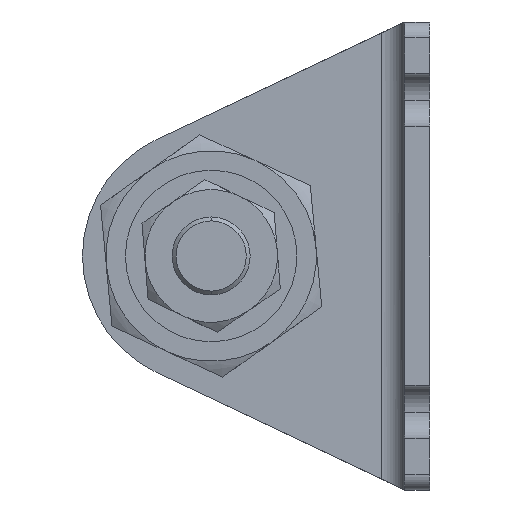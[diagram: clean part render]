
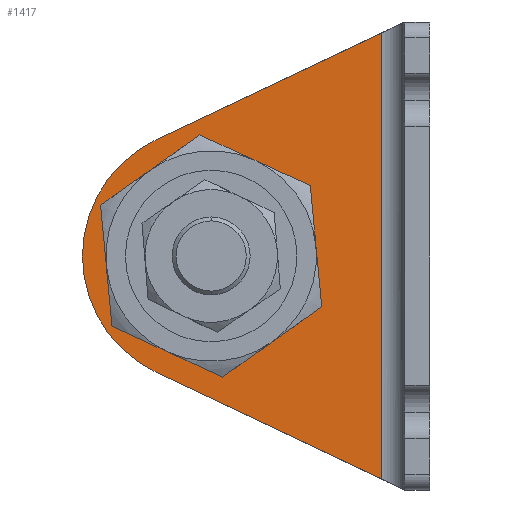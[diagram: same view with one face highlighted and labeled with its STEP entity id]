
A CAD part, left-side view. The second image highlights one B-rep face of the part: STEP entity #1417.
In plain terms, the highlighted planar face has unit normal (-1, 0, 0) as drawn and (1, 0, 0) by its records, which use the part's own axes.
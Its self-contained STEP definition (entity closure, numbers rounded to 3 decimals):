
#36 = DIRECTION ( 'NONE',  ( 0., 1., 0. ) ) ;
#90 = LINE ( 'NONE', #2504, #997 ) ;
#189 = AXIS2_PLACEMENT_3D ( 'NONE', #2409, #566, #434 ) ;
#203 = EDGE_CURVE ( 'NONE', #393, #1259, #2389, .T. ) ;
#204 = DIRECTION ( 'NONE',  ( 0., 0.904, -0.428 ) ) ;
#393 = VERTEX_POINT ( 'NONE', #3280 ) ;
#434 = DIRECTION ( 'NONE',  ( 0., 1., 0. ) ) ;
#566 = DIRECTION ( 'NONE',  ( 1., 0., 0. ) ) ;
#647 = EDGE_LOOP ( 'NONE', ( #2583, #804, #3081, #3786, #779 ) ) ;
#725 = VECTOR ( 'NONE', #204, 1000. ) ;
#753 = VERTEX_POINT ( 'NONE', #4062 ) ;
#769 = VERTEX_POINT ( 'NONE', #3979 ) ;
#779 = ORIENTED_EDGE ( 'NONE', *, *, #203, .T. ) ;
#783 = DIRECTION ( 'NONE',  ( 1., 0., 0. ) ) ;
#804 = ORIENTED_EDGE ( 'NONE', *, *, #3383, .T. ) ;
#849 = CARTESIAN_POINT ( 'NONE',  ( 3.2, 28., -30. ) ) ;
#941 = CARTESIAN_POINT ( 'NONE',  ( 3.2, 3.2, -60. ) ) ;
#997 = VECTOR ( 'NONE', #1192, 1000. ) ;
#1019 = CARTESIAN_POINT ( 'NONE',  ( 3.2, 35.062, -44.913 ) ) ;
#1043 = DIRECTION ( 'NONE',  ( 0., 1., 0. ) ) ;
#1045 = VERTEX_POINT ( 'NONE', #1019 ) ;
#1137 = CARTESIAN_POINT ( 'NONE',  ( 3.2, 28., -30. ) ) ;
#1192 = DIRECTION ( 'NONE',  ( 0., 0., -1. ) ) ;
#1259 = VERTEX_POINT ( 'NONE', #2529 ) ;
#1294 = LINE ( 'NONE', #4142, #3727 ) ;
#1319 = CIRCLE ( 'NONE', #1847, 11.5 ) ;
#1335 = EDGE_CURVE ( 'NONE', #1045, #393, #3227, .T. ) ;
#1388 = AXIS2_PLACEMENT_3D ( 'NONE', #1137, #1706, #4060 ) ;
#1412 = PLANE ( 'NONE',  #2775 ) ;
#1417 = ADVANCED_FACE ( 'NONE', ( #4167, #2356 ), #1412, .T. ) ;
#1668 = AXIS2_PLACEMENT_3D ( 'NONE', #849, #783, #1043 ) ;
#1694 = CARTESIAN_POINT ( 'NONE',  ( 3.2, 28., -30. ) ) ;
#1706 = DIRECTION ( 'NONE',  ( 1., 0., 0. ) ) ;
#1838 = EDGE_CURVE ( 'NONE', #769, #1045, #1294, .T. ) ;
#1847 = AXIS2_PLACEMENT_3D ( 'NONE', #1694, #3699, #1961 ) ;
#1961 = DIRECTION ( 'NONE',  ( 0., 1., 0. ) ) ;
#2022 = EDGE_LOOP ( 'NONE', ( #4044, #2728 ) ) ;
#2026 = VERTEX_POINT ( 'NONE', #2253 ) ;
#2053 = CARTESIAN_POINT ( 'NONE',  ( 3.2, 16.5, -30. ) ) ;
#2123 = EDGE_CURVE ( 'NONE', #753, #1259, #3870, .T. ) ;
#2179 = DIRECTION ( 'NONE',  ( 1., 0., 0. ) ) ;
#2253 = CARTESIAN_POINT ( 'NONE',  ( 3.2, 39.5, -30. ) ) ;
#2278 = CIRCLE ( 'NONE', #1668, 11.5 ) ;
#2311 = EDGE_CURVE ( 'NONE', #2026, #4012, #2278, .T. ) ;
#2356 = FACE_BOUND ( 'NONE', #2022, .T. ) ;
#2389 = CIRCLE ( 'NONE', #1388, 16.5 ) ;
#2409 = CARTESIAN_POINT ( 'NONE',  ( 3.2, 28., -30. ) ) ;
#2504 = CARTESIAN_POINT ( 'NONE',  ( 3.2, 6.2, -60. ) ) ;
#2529 = CARTESIAN_POINT ( 'NONE',  ( 3.2, 35.062, -15.087 ) ) ;
#2583 = ORIENTED_EDGE ( 'NONE', *, *, #2123, .F. ) ;
#2728 = ORIENTED_EDGE ( 'NONE', *, *, #3442, .F. ) ;
#2775 = AXIS2_PLACEMENT_3D ( 'NONE', #941, #2179, #36 ) ;
#2802 = CARTESIAN_POINT ( 'NONE',  ( 3.2, 26.408, -10.99 ) ) ;
#3081 = ORIENTED_EDGE ( 'NONE', *, *, #1838, .T. ) ;
#3227 = CIRCLE ( 'NONE', #189, 16.5 ) ;
#3280 = CARTESIAN_POINT ( 'NONE',  ( 3.2, 44.5, -30. ) ) ;
#3383 = EDGE_CURVE ( 'NONE', #753, #769, #90, .T. ) ;
#3442 = EDGE_CURVE ( 'NONE', #4012, #2026, #1319, .T. ) ;
#3477 = DIRECTION ( 'NONE',  ( 0., 0.904, 0.428 ) ) ;
#3699 = DIRECTION ( 'NONE',  ( 1., 0., 0. ) ) ;
#3727 = VECTOR ( 'NONE', #3477, 1000. ) ;
#3786 = ORIENTED_EDGE ( 'NONE', *, *, #1335, .T. ) ;
#3870 = LINE ( 'NONE', #2802, #725 ) ;
#3979 = CARTESIAN_POINT ( 'NONE',  ( 3.2, 6.2, -58.579 ) ) ;
#4012 = VERTEX_POINT ( 'NONE', #2053 ) ;
#4044 = ORIENTED_EDGE ( 'NONE', *, *, #2311, .F. ) ;
#4060 = DIRECTION ( 'NONE',  ( 0., 1., 0. ) ) ;
#4062 = CARTESIAN_POINT ( 'NONE',  ( 3.2, 6.2, -1.421 ) ) ;
#4142 = CARTESIAN_POINT ( 'NONE',  ( 3.2, 3.2, -60. ) ) ;
#4167 = FACE_OUTER_BOUND ( 'NONE', #647, .T. ) ;
